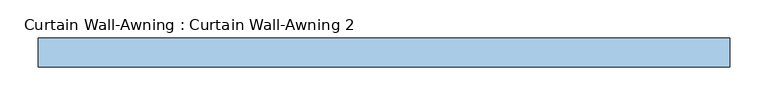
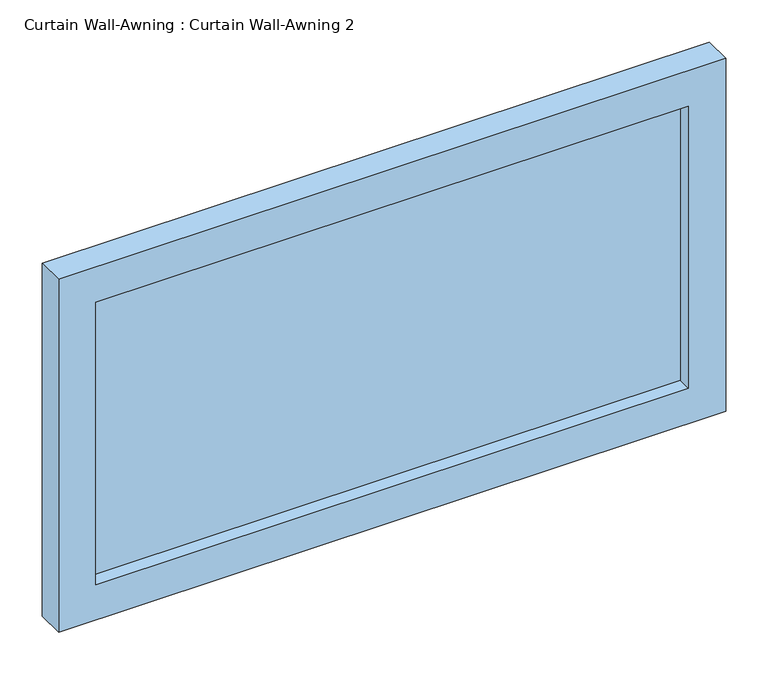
"""IFC4 building model written with IfcOpenShell, lengths in millimetres: window geometry, Curtain Wall-Awning : Curtain Wall-Awning 2."""

from ifc_helpers import new_model, si_unit, frame, origin, place, context, project, spatial, polyline, outline, extrude, source, transform, mapped, element, save


def curtain_wall_awning_curtain_wall_awning_2_6c4bd446(model_context):
    return source(origin(), model_context, "Body", "SweptSolid", [
        extrude(outline(polyline([(403.225, -19.05), (-403.225, -19.05), (-403.225, -6.35), (403.225, -6.35), (403.225, -19.05)])), frame((0.0, 0.0, 50.8), z_axis=(0.0, 0.0, 1.0), x_axis=(1.0, 0.0, 0.0)), (0.0, 0.0, 1.0), 406.2774401),
        extrude(outline(polyline([(507.8774401, -454.025), (0.0, -454.025), (0.0, 454.025), (507.8774401, 454.025), (507.8774401, -454.025)]), holes=[polyline([(457.0774401, -403.225), (457.0774401, 403.225), (50.8, 403.225), (50.8, -403.225), (457.0774401, -403.225)])]), frame((0.0, -38.1, 0.0), z_axis=(0.0, 1.0, 0.0), x_axis=(0.0, 0.0, 1.0)), (0.0, 0.0, 1.0), 38.1),
    ])


if __name__ == "__main__":
    model = new_model("IFC4")
    model_context = context("Model", 3, world=origin())
    ifc_project = project(units=[si_unit("LENGTHUNIT", "METRE", prefix="MILLI")], contexts=[model_context])
    site = spatial("IfcSite", under=ifc_project)
    building = spatial("IfcBuilding", under=site)
    placement = place(None, origin())
    curtain_wall_awning_curtain_wall_awning_2_shape = curtain_wall_awning_curtain_wall_awning_2_6c4bd446(model_context)
    element("IfcWindow", 1, ObjectType="Curtain Wall-Awning : Curtain Wall-Awning 2", at=placement, inside=building, context=model_context, shape_type="MappedRepresentation", body=[
        mapped(curtain_wall_awning_curtain_wall_awning_2_shape, transform((0.0, 0.0, 0.0), x_axis=(1.0, 0.0, 0.0), y_axis=(0.0, 1.0, 0.0), z_axis=(0.0, 0.0, 1.0))),
    ])
    save(model, "model.ifc")
